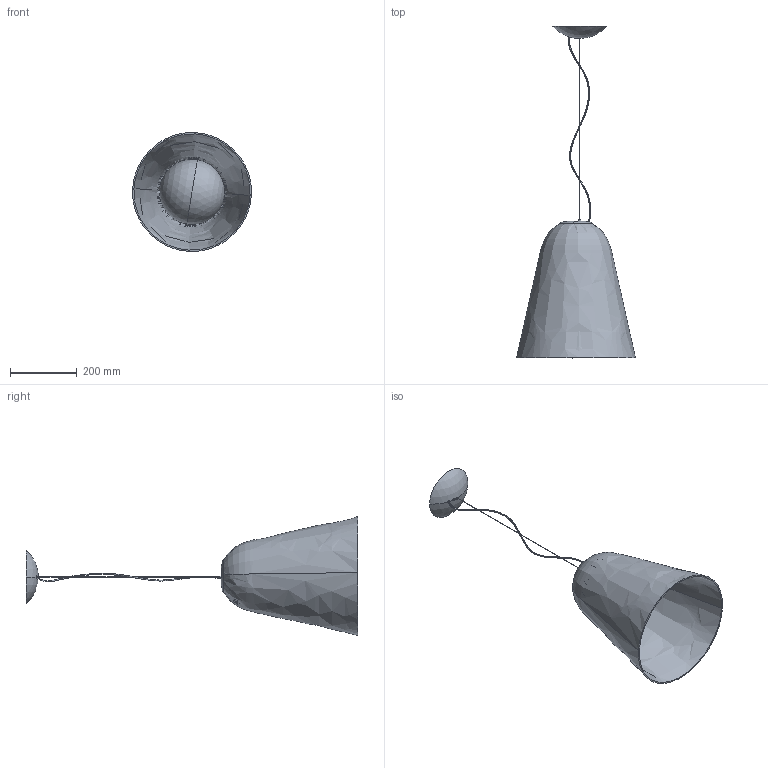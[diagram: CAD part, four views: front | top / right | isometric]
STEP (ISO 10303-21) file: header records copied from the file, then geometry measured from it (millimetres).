
FILE_DESCRIPTION (( 'STEP AP214' ), '1' );
FILE_NAME ('285_GRANDE_S_XX_3D.STEP', '2021-05-31T11:01:42', ( '' ), ( '' ), 'SwSTEP 2.0', 'SolidWorks 2021', '' );
FILE_SCHEMA (( 'AUTOMOTIVE_DESIGN' ));
Length unit declared in the file: millimetre
Products named in the file (1): 285_GRANDE_S_XX_3D
Bounding box: 356.7 x 996.69 x 356.7 mm (x, y, z)
Volume: 1627077.9 mm3; surface area: 948778 mm2
Topology: 7 solids, 7 shells, 1383 faces, 3409 edges, 1971 vertices
Faces by surface type: bspline 499, cylinder 225, plane 209, torus 207, cone 148, sphere 95
Entity records: 68920 total; most frequent: CARTESIAN_POINT 25450, ORIENTED_EDGE 6602, DIRECTION 5121, EDGE_CURVE 3301, AXIS2_PLACEMENT_3D 2262, VERTEX_POINT 1957, EDGE_LOOP 1430, UNCERTAINTY_MEASURE_WITH_UNIT 1392
